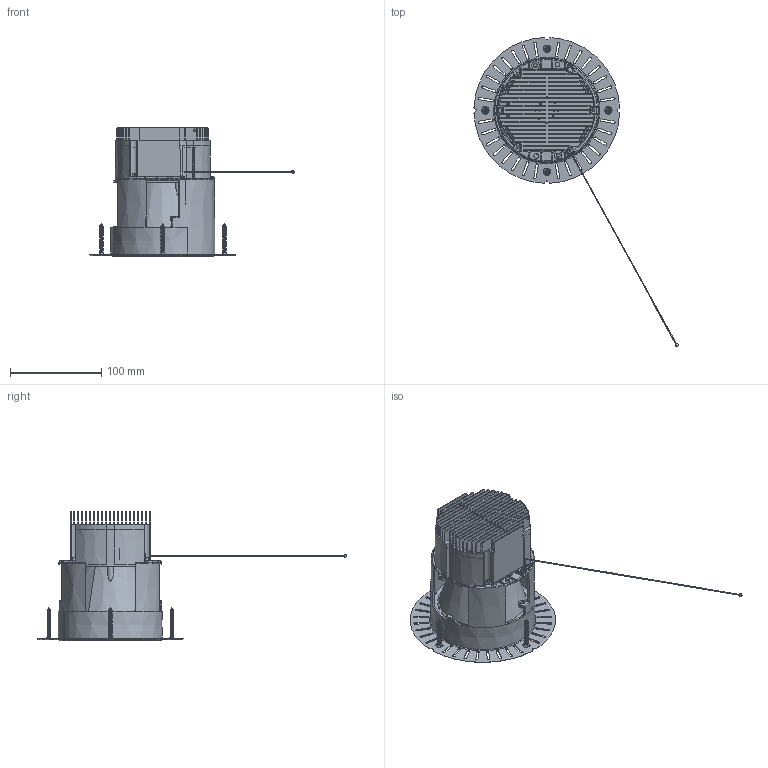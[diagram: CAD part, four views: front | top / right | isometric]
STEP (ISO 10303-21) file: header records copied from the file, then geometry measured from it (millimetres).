
FILE_DESCRIPTION((''),'2;1');
FILE_NAME('MOOD-L110_ASM','2020-09-09T',('Administrator'),(''),'PRO/ENGINEER BY PARAMETRIC TECHNOLOGY CORPORATION, 2001280','PRO/ENGINEER BY PARAMETRIC TECHNOLOGY CORPORATION, 2001280','');
FILE_SCHEMA(('CONFIG_CONTROL_DESIGN'));
Length unit declared in the file: millimetre
Products named in the file (25): 3_40447_00_0_1; STUDIO_LED_NICHIA__1600LM_00_0_; 1_39931_02_0_1; 1_35263_00_0_1; 1_34839_00_0_1; 1_00398_00_0_1; 1_32729_00_0_1; 1_40633_00_0_1; 1_01068_00_0_1; 1_01159_00_0_1; 1_40450_00_0_ASM_1_ASM; 3_40138_00_0_1; 1_40141_00_0_1; 1_37815_00_0_1; 1_38119_01_0_1; 1_40783_00_0_1; 1_40140_00_0_ASM_1_ASM; 3_28505_00_0_1; 3_28506_00_0_1; 0_35007_00_0_ASM_1_ASM; X_CG14K_00_0_ASM_1_ASM; X_CG14K-00_ASM_1_ASM; 51776-REV01-03062020; 1_38486; MOOD-L110_ASM
Assembly tree (40 placements, depth 5):
  MOOD-L110_ASM
    X_CG14K-00_ASM_1_ASM
      X_CG14K_00_0_ASM_1_ASM
        1_40450_00_0_ASM_1_ASM
          3_40447_00_0_1
          STUDIO_LED_NICHIA__1600LM_00_0_
          1_39931_02_0_1
          1_35263_00_0_1
          1_34839_00_0_1  x2
          1_00398_00_0_1
          1_32729_00_0_1  x4
          1_40633_00_0_1  x3
          1_01068_00_0_1  x2
          1_01159_00_0_1  x3
        1_40140_00_0_ASM_1_ASM
          3_40138_00_0_1
          1_40141_00_0_1
          1_37815_00_0_1  x3
          1_38119_01_0_1
          1_40783_00_0_1  x3
        0_35007_00_0_ASM_1_ASM
          3_28505_00_0_1
          3_28506_00_0_1
    51776-REV01-03062020
    1_38486  x4
Bounding box: 223.92 x 339.05 x 141.7 mm (x, y, z)
Volume: 252989.7 mm3; surface area: 254897 mm2
Topology: 35 solids, 35 shells, 2938 faces, 7939 edges, 5060 vertices
Faces by surface type: plane 1709, cylinder 549, cone 328, bspline 226, torus 100, sphere 22, extrusion 4
Entity records: 91650 total; most frequent: CARTESIAN_POINT 29967, ORIENTED_EDGE 13162, DIRECTION 12386, EDGE_CURVE 6581, AXIS2_PLACEMENT_3D 4342, VERTEX_POINT 4228, VECTOR 3702, LINE 3698
